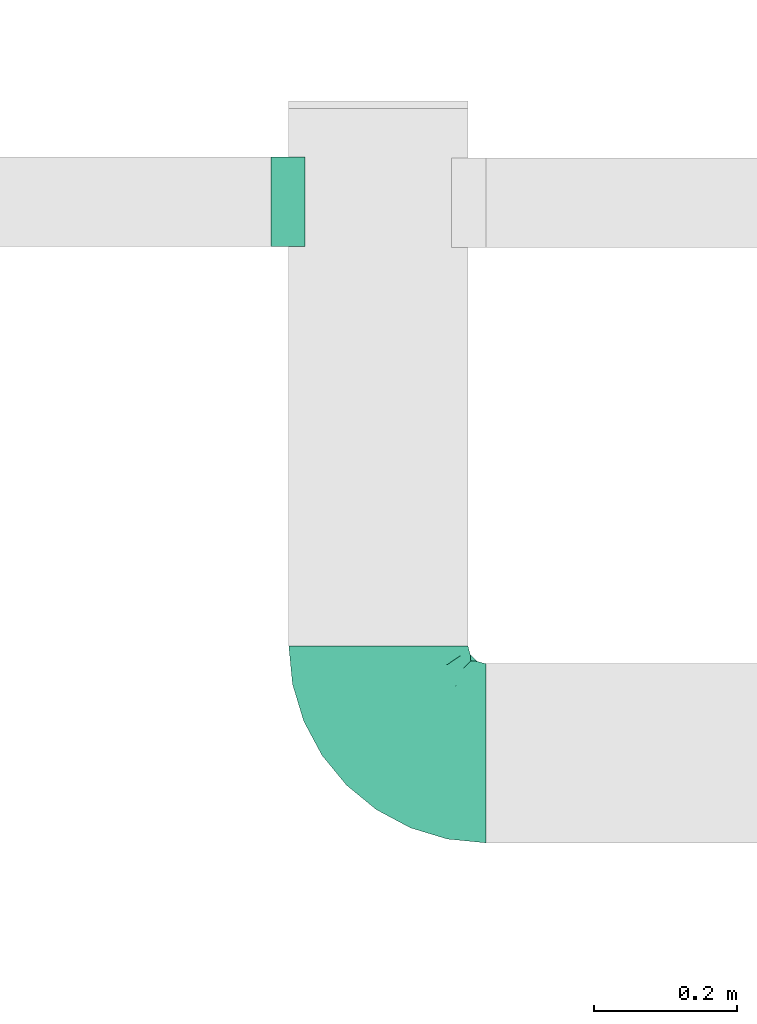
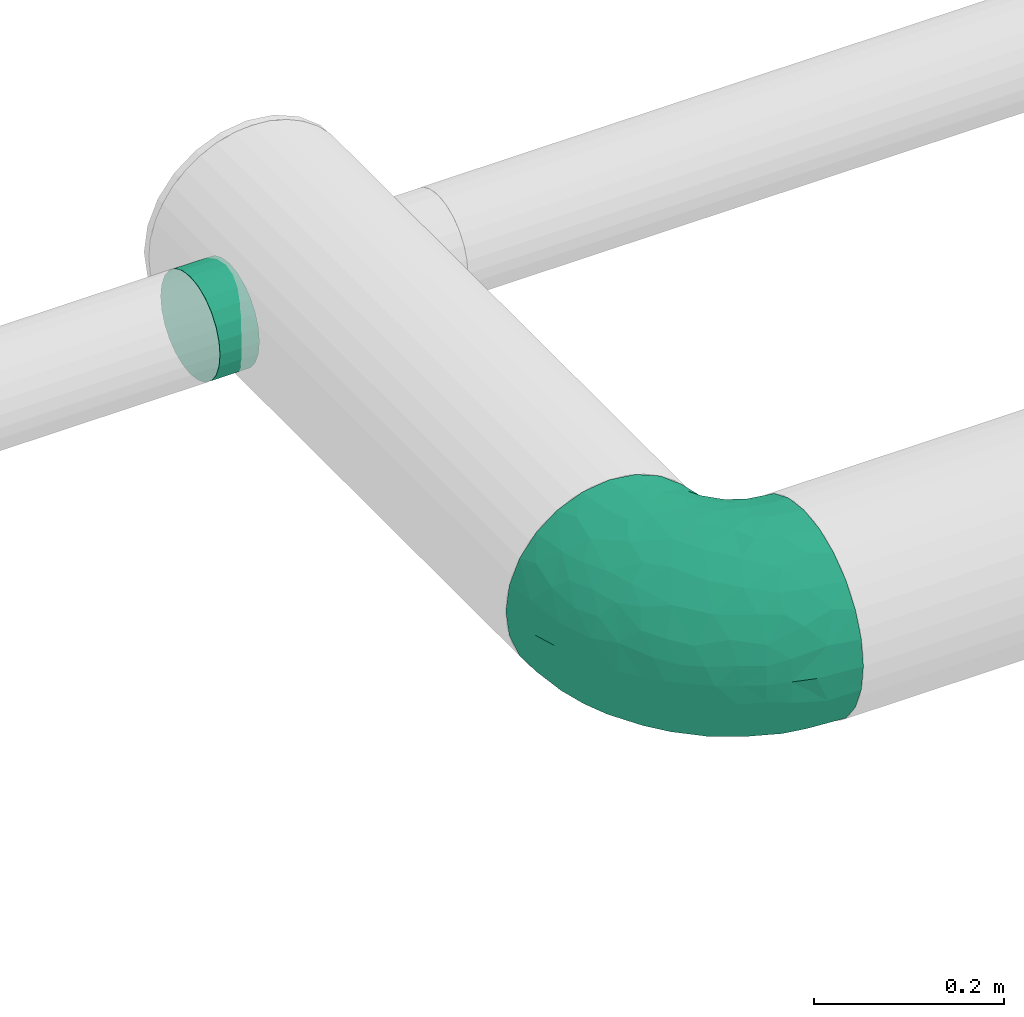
# One storey, part 61 of 63: 2 flow fittings.
"""IFC2X3 building model written with IfcOpenShell, lengths in millimetres."""

from ifc_helpers import new_model, entity, si_unit, converted_unit, derived_unit, direction, frame, origin_with_axes, place, context, subcontext, project, spatial, open_shell, surface_model, source, transform, mapped, type_object, element, save


model = new_model("IFC2X3")

# Units and contexts
model_context = context("Model", 3, precision=0.01, world=frame((0.0, 4.29681676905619e-09, 0.0)), true_north=direction((4.01073788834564e-13, 1.0)))
plan_context = context("Plan", 3, precision=0.01, world=frame((0.0, 4.29681676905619e-09, 0.0)), true_north=direction((4.01073788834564e-13, 1.0)))
body_context = subcontext(model_context, "Body", "Model", "MODEL_VIEW")
ifc_project = project(units=[converted_unit("PLANEANGLEUNIT", "DEGREE", entity("IfcPositiveLengthMeasure", 0.0174532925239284), si_unit("PLANEANGLEUNIT", "RADIAN"), dimensions=[0, 0, 0, 0, 0, 0, 0]), si_unit("AREAUNIT", "SQUARE_METRE"), si_unit("LENGTHUNIT", "METRE", prefix="MILLI"), si_unit("MASSUNIT", "GRAM", prefix="KILO"), si_unit("POWERUNIT", "WATT"), si_unit("PRESSUREUNIT", "PASCAL"), si_unit("FORCEUNIT", "NEWTON", prefix="KILO"), si_unit("ELECTRICVOLTAGEUNIT", "VOLT"), si_unit("ELECTRICCURRENTUNIT", "AMPERE"), si_unit("THERMODYNAMICTEMPERATUREUNIT", "DEGREE_CELSIUS"), si_unit("TIMEUNIT", "SECOND"), si_unit("VOLUMEUNIT", "CUBIC_METRE"), derived_unit("LINEARVELOCITYUNIT", [(si_unit("LENGTHUNIT", "METRE"), 1), (si_unit("TIMEUNIT", "SECOND"), -1)]), derived_unit("VOLUMETRICFLOWRATEUNIT", [(si_unit("VOLUMEUNIT", "CUBIC_METRE"), 1), (si_unit("TIMEUNIT", "SECOND"), -1)]), derived_unit("THERMALTRANSMITTANCEUNIT", [(si_unit("POWERUNIT", "WATT"), 1), (si_unit("THERMODYNAMICTEMPERATUREUNIT", "KELVIN"), -1), (si_unit("AREAUNIT", "SQUARE_METRE"), -1)]), derived_unit("SOUNDPRESSUREUNIT", [(si_unit("PRESSUREUNIT", "PASCAL"), 1)])], contexts=[model_context, plan_context])

# Site, building, storey
site_placement = place(None, frame((0.0, -4.29681676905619e-09, 0.0), z_axis=(0.0, 0.0, 1.0), x_axis=(1.0, 0.0, 0.0)))
site = spatial("IfcSite", under=ifc_project, at=site_placement, CompositionType="ELEMENT")
building_placement = place(site_placement, frame((0.0, 4.29681676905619e-09, 0.0), z_axis=(0.0, 0.0, 1.0), x_axis=(1.0, 0.0, 0.0)))
building = spatial("IfcBuilding", under=site, at=building_placement, Name="mc-building", CompositionType="ELEMENT")
storey_placement = place(building_placement, frame((0.0, 0.0, 210900.0), z_axis=(0.0, 0.0, 1.0), x_axis=(1.0, 0.0, 0.0)))
storey = spatial("IfcBuildingStorey", under=building, at=storey_placement, Name="Nivå F", CompositionType="ELEMENT", Elevation=210900.0)

# Flow fittings
duct_fitting_type_1 = type_object("IfcDuctFittingType", Name="magicirc_elbow_short_001", PredefinedType="BEND")
shared_shape_1 = source(origin_with_axes(), body_context, "Body", "SurfaceModel", [
    surface_model("IfcShellBasedSurfaceModel", [(-150.0, 0.0, -125.0), (-150.0, -32.35238, -120.74073), (-150.0, 32.35238, -120.74073), (-150.0, 62.5, -108.25318), (-150.0, 88.38835, -88.38835), (-150.0, 108.25318, -62.5), (-150.0, 120.74073, -32.35238), (-150.0, -62.5, -108.25318), (-150.0, -88.38835, -88.38835), (-150.0, -125.0, 0.0), (-150.0, -108.25318, -62.5), (-150.0, -120.74073, -32.35238), (-150.0, 125.0, 0.0), (-150.0, -120.74073, 32.35238), (-150.0, 120.74073, 32.35238), (-150.0, 108.25318, 62.5), (-150.0, 32.35238, 120.74073), (-150.0, 62.5, 108.25318), (-150.0, 88.38835, 88.38835), (-150.0, -88.38835, 88.38835), (-150.0, -108.25318, 62.5), (-150.0, -32.35238, 120.74073), (-150.0, 0.0, 125.0), (-150.0, -62.5, 108.25318), (-32.35238, 150.0, -120.74073), (88.38835, 150.0, -88.38835), (0.0, 150.0, -125.0), (-88.38835, 150.0, -88.38835), (-62.5, 150.0, -108.25318), (-108.25318, 150.0, -62.5), (-120.74073, 150.0, -32.35238), (88.38835, 150.0, 88.38835), (32.35238, 150.0, -120.74073), (62.5, 150.0, -108.25318), (120.74073, 150.0, -32.35238), (108.25318, 150.0, -62.5), (125.0, 150.0, 0.0), (-125.0, 150.0, 0.0), (-120.74073, 150.0, 32.35238), (-32.35238, 150.0, 120.74073), (-108.25318, 150.0, 62.5), (-88.38835, 150.0, 88.38835), (-62.5, 150.0, 108.25318), (120.74073, 150.0, 32.35238), (108.25318, 150.0, 62.5), (62.5, 150.0, 108.25318), (0.0, 150.0, 125.0), (32.35238, 150.0, 120.74073), (3.43621, -49.5686, 72.62973), (-18.36868, -48.37229, 88.70337), (-18.83692, -66.65046, 70.44253), (-111.90441, -117.21345, 35.28889), (-118.95041, -121.94188, 0.0), (25.86906, 108.55436, 121.17479), (-75.7772, -90.32158, 72.9261), (-74.87608, -74.03385, 90.43438), (-106.18274, -83.07991, 89.59712), (-96.35016, -119.71595, 0.0), (-46.47779, 70.62109, 123.46212), (-76.11794, 76.11794, 116.41901), (-69.40624, 48.8823, 123.2752), (-124.4932, -102.85852, 69.13391), (61.55426, -23.61809, 0.0), (70.72079, -10.51336, 22.73937), (52.73629, -32.74631, 22.58023), (-124.77817, -54.06971, 111.94259), (-90.65624, -57.4337, 106.30719), (32.14495, -52.26832, 26.33949), (-0.28194, -75.27927, 33.26458), (23.61809, -61.55426, 0.0), (-95.68999, 131.65378, 83.88297), (-69.77814, 120.80048, 106.99559), (-67.0959, -108.40643, 29.86559), (-70.55611, -111.89141, 0.0), (-44.76206, -104.06687, 0.0), (-59.72745, 94.86231, 116.91683), (-108.55438, -25.86905, 121.17479), (54.06971, 124.77816, 111.94259), (-27.02672, -92.24399, 28.66038), (-115.00313, 7.3209, 124.96177), (37.68395, -37.68396, 47.97943), (-29.53309, 7.28525, 119.4722), (-3.39232, -9.52602, 105.74117), (0.96712, 29.12319, 117.22512), (-136.08989, 114.55349, 55.66419), (-123.43379, 95.73566, 87.17875), (-119.07435, 119.07435, 65.82439), (-129.09162, 129.09162, 33.48663), (-137.5, 128.34936, 0.0), (-121.4114, 69.81738, 106.84783), (-150.0, 47.42619, 114.49695), (-128.63564, 33.72653, 120.89263), (-27.58141, -83.17169, 52.68646), (-47.99632, -78.87458, 74.22581), (-54.84475, -96.13379, 51.52422), (-41.1276, 38.26732, 124.85571), (102.85852, 124.4932, 69.13391), (83.07991, 106.18274, 89.59712), (-94.00852, 107.9804, 96.05098), (74.96021, 76.43193, 90.06036), (90.74371, 74.5558, 71.84785), (117.21345, 111.90441, 35.28889), (121.94188, 118.95041, 0.0), (-47.30293, -61.16044, 91.82798), (-101.88517, 84.02177, 104.66367), (110.18665, 71.48082, 28.20521), (111.89141, 70.55611, 0.0), (55.40218, 7.25052, 74.8198), (24.63024, -24.60151, 78.91029), (58.21029, -16.89277, 44.41752), (57.4337, 90.65623, 106.30718), (30.02154, 57.30162, 113.4468), (-128.34936, 137.5, 0.0), (-73.97464, 6.61086, 124.39367), (-33.52256, 127.66016, 120.99202), (-7.19958, 114.11429, 124.96953), (-18.42999, 93.20127, 124.82066), (14.9991, 81.71173, 121.69074), (-109.70554, 132.7303, 65.99174), (-81.52168, -16.35182, 121.37252), (-56.488, -29.68334, 113.41267), (55.20354, 44.94313, 95.60044), (-90.85645, -103.28598, 59.18699), (-26.43187, -29.68413, 104.83883), (103.28598, 90.85645, 59.18699), (-7.20961, 68.77767, 124.18226), (30.67747, 15.69438, 99.90432), (-47.42619, 150.0, 114.49695), (78.87458, 47.99631, 74.22581), (76.94281, 15.76685, 52.00246), (-107.88822, 38.92177, 121.04182), (-96.15013, 61.71268, 115.9946), (-96.31285, 19.15333, 124.70605), (14.59493, -56.28029, 51.4962), (104.06687, 44.76206, 0.0), (102.01943, 45.4582, 23.12647), (119.71595, 96.35016, 0.0), (-20.99012, -91.36051, 0.0), (89.00824, 19.09141, 24.82271), (78.65415, -2.78181, 0.0), (91.36051, 20.99012, 0.0), (2.78181, -78.65415, 0.0), (44.45436, -44.45436, 0.0), (-38.84807, 105.96939, 121.23578), (-120.80048, 69.77814, -106.99559), (54.06971, 124.77816, -111.94259), (-90.65624, -57.4337, -106.30719), (-124.77817, -54.06971, -111.94259), (-108.55438, -25.86906, -121.17479), (-18.36869, -48.37229, -88.70338), (-18.83692, -66.65046, -70.44253), (-47.30293, -61.16045, -91.82798), (-96.31285, 19.15333, -124.70605), (-73.97463, 6.61086, -124.39367), (-115.00313, 7.3209, -124.96177), (14.9991, 81.71175, -121.69074), (25.86906, 108.55438, -121.17479), (30.02154, 57.30164, -113.44681), (-129.09162, 129.09162, -33.48663), (-95.73566, 123.43379, -87.17875), (-84.02176, 101.88516, -104.66368), (-107.9804, 94.00852, -96.05098), (-0.28194, -75.27927, -33.26458), (-131.65378, 95.68999, -83.88297), (-132.7303, 109.70554, -65.99174), (-107.88822, 38.92177, -121.04182), (-128.63564, 33.72653, -120.89263), (-119.07435, 119.07435, -65.82439), (-111.90441, -117.21345, -35.28889), (-76.11794, 76.11793, -116.41901), (-69.69403, 48.67006, -123.27304), (-95.38125, 59.83873, -116.77822), (-106.18274, -83.07991, -89.59712), (-3.39231, -9.52602, -105.74117), (24.63023, -24.60151, -78.91029), (-54.84475, -96.13379, -51.52422), (-75.7772, -90.32158, -72.9261), (-47.99632, -78.87458, -74.22581), (-124.4932, -102.85852, -69.13391), (30.67749, 15.69438, -99.9043), (0.96713, 29.12319, -117.22511), (-69.81738, 121.4114, -106.84784), (-27.02672, -92.24399, -28.66038), (-67.0959, -108.40643, -29.86559), (78.87458, 47.99631, -74.22581), (96.43495, 48.9163, -45.66349), (76.94285, 15.76686, -52.00241), (37.68395, -37.68396, -47.97943), (58.21029, -16.89277, -44.41752), (52.73629, -32.74631, -22.58023), (-48.07357, 68.7261, -123.44788), (-114.55349, 136.08989, -55.66419), (117.21345, 111.90441, -35.28889), (-7.19958, 114.11428, -124.96953), (-27.58141, -83.17169, -52.68646), (-47.42619, 150.0, -114.49695), (-33.52256, 127.66015, -120.99202), (32.14495, -52.26832, -26.33949), (14.59493, -56.28029, -51.4962), (83.07991, 106.18274, -89.59712), (102.85852, 124.4932, -69.13391), (89.00829, 19.0915, -24.82265), (70.72079, -10.51336, -22.73937), (57.4337, 90.65623, -106.30719), (110.18664, 71.4808, -28.20522), (102.0194, 45.45816, -23.12649), (-90.85645, -103.28598, -59.18699), (90.01217, 76.65037, -73.68876), (73.67235, 74.27652, -90.57836), (-29.53307, 7.28526, -119.4722), (-56.488, -29.68334, -113.41267), (-74.87608, -74.03385, -90.43438), (-81.52167, -16.35182, -121.37252), (-26.43187, -29.68413, -104.83883), (103.28598, 90.85645, -59.18699), (-18.42999, 93.20126, -124.82066), (-38.84807, 105.96939, -121.23578), (55.20355, 44.94317, -95.60045), (-150.0, 47.42619, -114.49695), (55.40223, 7.25057, -74.81978), (-61.71268, 96.15012, -115.9946), (-41.12759, 38.26731, -124.85571), (3.43621, -49.56858, -72.62973), (-7.2096, 68.77766, -124.18226), (96.43496, 48.91625, 45.66343)], [open_shell([[[0, 1, 2]], [[3, 2, 4]], [[1, 5, 2]], [[4, 2, 5]], [[5, 1, 6]], [[7, 8, 1]], [[9, 1, 8]], [[10, 11, 8]], [[9, 8, 11]], [[9, 6, 1]], [[9, 12, 6]], [[12, 13, 14]], [[15, 14, 16]], [[16, 17, 18]], [[15, 16, 18]], [[16, 14, 19]], [[20, 19, 13]], [[19, 14, 13]], [[21, 22, 23]], [[19, 23, 22]], [[19, 22, 16]], [[9, 13, 12]], [[24, 25, 26]], [[27, 24, 28]], [[29, 30, 24]], [[29, 24, 27]], [[24, 31, 25]], [[32, 25, 33]], [[32, 26, 25]], [[25, 34, 35]], [[34, 25, 36]], [[25, 31, 36]], [[24, 30, 37]], [[38, 31, 37]], [[39, 38, 40]], [[41, 42, 39]], [[41, 39, 40]], [[31, 38, 39]], [[43, 31, 44]], [[36, 31, 43]], [[45, 46, 47]], [[46, 45, 31]], [[39, 46, 31]], [[31, 24, 37]], [[48, 49, 50]], [[51, 13, 52]], [[53, 47, 46]], [[54, 55, 56]], [[52, 57, 51]], [[58, 59, 60]], [[20, 61, 19]], [[62, 63, 64]], [[65, 56, 66]], [[67, 68, 69]], [[41, 70, 71]], [[72, 73, 74]], [[59, 58, 75]], [[21, 76, 22]], [[77, 45, 47]], [[23, 19, 56]], [[72, 74, 78]], [[79, 16, 22]], [[76, 21, 65]], [[80, 67, 64]], [[81, 82, 83]], [[84, 85, 86]], [[87, 12, 14]], [[12, 87, 88]], [[18, 17, 89]], [[51, 20, 13]], [[18, 89, 85]], [[17, 90, 91]], [[84, 14, 15]], [[91, 90, 16]], [[92, 93, 94]], [[40, 70, 41]], [[83, 95, 81]], [[44, 31, 96]], [[97, 31, 45]], [[86, 85, 98]], [[99, 100, 97]], [[101, 102, 43]], [[66, 55, 103]], [[77, 97, 45]], [[101, 43, 44]], [[85, 15, 18]], [[104, 85, 89]], [[85, 84, 15]], [[101, 105, 106]], [[107, 108, 109]], [[110, 53, 111]], [[88, 87, 112]], [[60, 113, 95]], [[112, 87, 37]], [[85, 104, 98]], [[38, 37, 87]], [[71, 114, 42]], [[115, 116, 117]], [[118, 38, 87]], [[70, 118, 98]], [[119, 76, 120]], [[110, 111, 121]], [[115, 53, 46]], [[42, 41, 71]], [[77, 53, 110]], [[72, 78, 94]], [[54, 122, 94]], [[21, 23, 65]], [[120, 76, 66]], [[61, 56, 19]], [[76, 119, 79]], [[93, 103, 55]], [[120, 123, 81]], [[99, 97, 110]], [[96, 97, 124]], [[46, 39, 115]], [[111, 117, 125]], [[125, 83, 111]], [[111, 83, 126]], [[75, 98, 59]], [[114, 39, 127]], [[128, 107, 129]], [[121, 107, 128]], [[130, 89, 17]], [[104, 131, 59]], [[114, 115, 39]], [[115, 114, 116]], [[51, 57, 73]], [[61, 51, 122]], [[96, 101, 44]], [[76, 79, 22]], [[132, 79, 113]], [[83, 125, 95]], [[126, 83, 82]], [[125, 116, 58]], [[59, 131, 60]], [[126, 82, 108]], [[121, 111, 126]], [[49, 108, 82]], [[80, 133, 67]], [[123, 49, 82]], [[93, 92, 50]], [[107, 121, 126]], [[121, 128, 99]], [[108, 107, 126]], [[107, 109, 129]], [[95, 113, 81]], [[120, 81, 113]], [[63, 109, 64]], [[134, 105, 135]], [[106, 136, 101]], [[101, 124, 105]], [[78, 74, 137]], [[73, 72, 51]], [[51, 72, 122]], [[68, 133, 50]], [[72, 94, 122]], [[92, 94, 78]], [[54, 94, 93]], [[63, 129, 109]], [[138, 139, 140]], [[68, 92, 78]], [[50, 49, 103]], [[78, 141, 68]], [[68, 141, 69]], [[67, 69, 142]], [[64, 67, 142]], [[68, 67, 133]], [[68, 50, 92]], [[48, 50, 133]], [[80, 48, 133]], [[108, 49, 48]], [[62, 139, 63]], [[80, 64, 109]], [[139, 138, 63]], [[129, 63, 138]], [[64, 142, 62]], [[109, 108, 80]], [[48, 80, 108]], [[55, 54, 93]], [[56, 122, 54]], [[93, 50, 103]], [[56, 55, 66]], [[123, 103, 49]], [[66, 103, 120]], [[131, 104, 89]], [[98, 104, 59]], [[89, 130, 131]], [[60, 95, 58]], [[131, 130, 60]], [[60, 130, 132]], [[125, 58, 95]], [[75, 58, 143]], [[143, 71, 75]], [[98, 75, 71]], [[118, 70, 40]], [[135, 140, 134]], [[71, 70, 98]], [[38, 118, 40]], [[98, 118, 86]], [[84, 87, 14]], [[118, 87, 86]], [[13, 9, 52]], [[102, 101, 136]], [[102, 36, 43]], [[87, 84, 86]], [[51, 61, 20]], [[56, 61, 122]], [[56, 65, 23]], [[76, 65, 66]], [[97, 96, 31]], [[101, 96, 124]], [[53, 77, 47]], [[97, 77, 110]], [[114, 71, 143]], [[116, 114, 143]], [[42, 114, 127]], [[79, 132, 91]], [[79, 91, 16]], [[17, 91, 130]], [[120, 113, 119]], [[79, 119, 113]], [[121, 99, 110]], [[100, 99, 128]], [[97, 100, 124]], [[111, 53, 117]], [[115, 117, 53]], [[58, 116, 143]], [[117, 116, 125]], [[60, 132, 113]], [[91, 132, 130]], [[81, 123, 82]], [[103, 123, 120]], [[140, 135, 138]], [[105, 134, 106]], [[137, 141, 78]], [[4, 144, 3]], [[32, 33, 145]], [[146, 147, 148]], [[149, 150, 151]], [[152, 153, 154]], [[155, 156, 157]], [[88, 158, 12]], [[159, 160, 161]], [[158, 6, 12]], [[141, 162, 69]], [[161, 163, 164]], [[3, 165, 166]], [[167, 159, 161]], [[158, 164, 6]], [[10, 168, 11]], [[168, 52, 11]], [[169, 170, 171]], [[7, 147, 172]], [[173, 174, 149]], [[175, 176, 177]], [[148, 1, 0]], [[34, 36, 102]], [[10, 8, 178]], [[179, 173, 180]], [[160, 159, 181]], [[182, 74, 183]], [[8, 7, 172]], [[184, 185, 186]], [[187, 188, 189]], [[158, 88, 112]], [[154, 148, 0]], [[37, 30, 158]], [[170, 169, 190]], [[191, 30, 29]], [[192, 35, 34]], [[4, 163, 144]], [[191, 159, 167]], [[24, 26, 193]], [[147, 7, 1]], [[154, 0, 2]], [[156, 193, 26]], [[162, 182, 194]], [[195, 24, 196]], [[197, 162, 198]], [[181, 159, 27]], [[159, 29, 27]], [[199, 33, 25]], [[35, 200, 25]], [[186, 185, 201]], [[202, 62, 189]], [[32, 145, 156]], [[199, 203, 145]], [[204, 134, 205]], [[183, 168, 206]], [[102, 136, 192]], [[34, 102, 192]], [[27, 28, 181]], [[182, 141, 137]], [[32, 156, 26]], [[199, 207, 208]], [[209, 180, 173]], [[146, 148, 210]], [[176, 211, 177]], [[37, 158, 112]], [[178, 172, 206]], [[5, 163, 4]], [[210, 212, 153]], [[209, 210, 153]], [[213, 173, 149]], [[200, 199, 25]], [[207, 199, 214]], [[157, 156, 203]], [[215, 216, 196]], [[203, 208, 217]], [[171, 161, 169]], [[166, 2, 218]], [[179, 174, 173]], [[186, 188, 219]], [[181, 28, 196]], [[160, 220, 169]], [[193, 156, 155]], [[28, 195, 196]], [[178, 168, 10]], [[168, 73, 57]], [[192, 106, 204]], [[200, 192, 214]], [[2, 166, 154]], [[154, 153, 212]], [[179, 180, 157]], [[180, 209, 221]], [[153, 152, 170]], [[169, 220, 190]], [[157, 217, 179]], [[179, 217, 219]], [[174, 179, 219]], [[194, 177, 150]], [[150, 222, 198]], [[211, 151, 177]], [[203, 217, 157]], [[184, 186, 219]], [[184, 219, 217]], [[174, 219, 188]], [[209, 173, 213]], [[153, 221, 209]], [[207, 185, 184]], [[186, 201, 202]], [[204, 185, 214]], [[205, 140, 201]], [[214, 192, 204]], [[168, 183, 73]], [[74, 73, 183]], [[183, 175, 182]], [[175, 183, 206]], [[182, 175, 194]], [[176, 175, 206]], [[194, 175, 177]], [[205, 185, 204]], [[206, 172, 176]], [[177, 151, 150]], [[194, 150, 162]], [[69, 162, 197]], [[141, 182, 162]], [[69, 197, 142]], [[187, 197, 198]], [[189, 142, 197]], [[222, 150, 149]], [[162, 150, 198]], [[149, 174, 222]], [[187, 222, 174]], [[222, 187, 198]], [[174, 188, 187]], [[187, 189, 197]], [[189, 188, 202]], [[186, 202, 188]], [[201, 139, 202]], [[62, 202, 139]], [[62, 142, 189]], [[211, 172, 146]], [[172, 211, 176]], [[146, 210, 151]], [[146, 151, 211]], [[213, 151, 210]], [[220, 160, 181]], [[161, 160, 169]], [[181, 216, 220]], [[190, 221, 170]], [[220, 216, 190]], [[190, 216, 215]], [[153, 170, 221]], [[171, 165, 144]], [[165, 171, 170]], [[161, 171, 144]], [[164, 163, 5]], [[140, 139, 201]], [[144, 163, 161]], [[6, 164, 5]], [[161, 164, 167]], [[191, 158, 30]], [[164, 158, 167]], [[52, 168, 57]], [[52, 9, 11]], [[159, 191, 29]], [[158, 191, 167]], [[172, 178, 8]], [[168, 178, 206]], [[148, 147, 1]], [[172, 147, 146]], [[192, 200, 35]], [[199, 200, 214]], [[199, 145, 33]], [[156, 145, 203]], [[216, 181, 196]], [[24, 193, 196]], [[215, 196, 193]], [[165, 3, 144]], [[3, 166, 218]], [[166, 165, 152]], [[210, 148, 212]], [[154, 212, 148]], [[185, 207, 214]], [[208, 207, 184]], [[217, 208, 184]], [[199, 208, 203]], [[155, 215, 193]], [[166, 152, 154]], [[170, 152, 165]], [[151, 213, 149]], [[209, 213, 210]], [[140, 205, 134]], [[201, 185, 205]], [[106, 192, 136]], [[106, 134, 204]], [[74, 182, 137]], [[190, 223, 221]], [[180, 221, 223]], [[180, 223, 157]], [[157, 223, 155]], [[155, 223, 215]], [[190, 215, 223]], [[124, 100, 224]], [[224, 128, 129]], [[105, 124, 224]], [[138, 224, 129]], [[224, 135, 105]], [[224, 100, 128]], [[224, 138, 135]]])]),
])
flow_fitting_1_placement = place(storey_placement, frame((528724.09314, 460362.68623, 4200.0), z_axis=(0.0, 0.0, 1.0), x_axis=(0.0, -1.0, 0.0)))
element("IfcFlowFitting", 1, at=flow_fitting_1_placement, inside=storey, type_object=duct_fitting_type_1, Name="magicirc_elbow_short_001", context=body_context, shape_type="MappedRepresentation", body=[
    mapped(shared_shape_1, transform((0.0, 0.0, 0.0), scale=1.0)),
])
duct_fitting_type_2 = type_object("IfcDuctFittingType", Name="magicirc_tapoutlet_001", PredefinedType="CONNECTOR")
shared_shape_2 = source(origin_with_axes(), body_context, "Body", "SurfaceModel", [
    surface_model("IfcShellBasedSurfaceModel", [(-22.84282, -44.19417, -44.19417), (-22.84282, -62.5, 0.0), (-22.84282, -31.25, -54.12659), (-22.84282, -54.12659, -31.25), (-22.84282, 62.5, 0.0), (-22.84282, 60.37037, -16.17619), (-22.84282, 60.37037, 16.17619), (25.0, 0.0, -62.5), (25.0, 16.17619, -60.37037), (25.0, -16.17619, -60.37037), (25.0, -60.37037, 16.17619), (25.0, -31.25, -54.12659), (25.0, -44.19417, -44.19417), (25.0, -54.12659, -31.25), (25.0, 62.5, 0.0), (25.0, 60.37037, 16.17619), (25.0, 44.19417, -44.19417), (25.0, 31.25, -54.12659), (25.0, 60.37037, -16.17619), (25.0, 54.12659, -31.25), (25.0, -60.37037, -16.17619), (25.0, -54.12659, 31.25), (25.0, -44.19417, 44.19417), (25.0, -16.17619, 60.37037), (25.0, -31.25, 54.12659), (25.0, 16.17619, 60.37037), (25.0, 54.12659, 31.25), (25.0, 44.19417, 44.19417), (25.0, 31.25, 54.12659), (25.0, 0.0, 62.5), (25.0, -62.5, 0.0), (0.0, 0.0, 62.5), (0.0, -16.17619, 60.37037), (0.0, -44.19417, 44.19417), (0.0, -31.25, 54.12659), (0.0, -54.12659, 31.25), (0.0, -60.37037, 16.17619), (0.0, -62.5, 0.0), (0.0, -60.37037, -16.17619), (0.0, -44.19417, -44.19417), (0.0, -54.12659, -31.25), (0.0, -31.25, -54.12659), (0.0, -16.17619, -60.37037), (0.0, 0.0, -62.5), (0.0, 16.17619, -60.37037), (0.0, 44.19417, -44.19417), (0.0, 31.25, -54.12659), (0.0, 54.12659, -31.25), (0.0, 60.37037, -16.17619), (0.0, 62.5, 0.0), (0.0, 60.37037, 16.17619), (0.0, 44.19417, 44.19417), (0.0, 54.12659, 31.25), (0.0, 31.25, 54.12659), (0.0, 16.17619, 60.37037), (-22.84282, -16.17619, -60.37037), (-22.84282, 0.0, -62.5), (-22.84282, 44.19417, -44.19417), (-22.84282, 31.25, -54.12659), (-22.84282, 16.17619, -60.37037), (-22.84282, 54.12659, -31.25), (-22.84282, -60.37037, -16.17619), (-22.84282, -60.37037, 16.17619), (-22.84282, -54.12659, 31.25), (-22.84282, -44.19417, 44.19417), (-22.84282, -31.25, 54.12659), (-22.84282, 0.0, 62.5), (-22.84282, -16.17619, 60.37037), (-22.84282, 44.19417, 44.19417), (-22.84282, 54.12659, 31.25), (-22.84282, 16.17619, 60.37037), (-22.84282, 31.25, 54.12659)], [open_shell([[[0, 1, 2]], [[0, 3, 1]], [[4, 5, 6]], [[7, 8, 9]], [[9, 10, 11]], [[12, 10, 13]], [[11, 10, 12]], [[9, 14, 15]], [[16, 14, 17]], [[8, 17, 14]], [[18, 14, 19]], [[16, 19, 14]], [[14, 9, 8]], [[20, 13, 10]], [[10, 9, 21]], [[22, 21, 9]], [[9, 23, 24]], [[9, 24, 22]], [[9, 25, 23]], [[26, 27, 9]], [[9, 15, 26]], [[27, 28, 9]], [[9, 28, 25]], [[25, 29, 23]], [[30, 20, 10]], [[23, 29, 31]], [[24, 23, 32]], [[32, 23, 31]], [[33, 22, 34]], [[24, 32, 34]], [[24, 34, 22]], [[10, 21, 35]], [[30, 10, 36]], [[35, 21, 33]], [[10, 35, 36]], [[30, 36, 37]], [[22, 33, 21]], [[20, 30, 37]], [[13, 20, 38]], [[38, 20, 37]], [[39, 12, 40]], [[13, 38, 40]], [[13, 40, 12]], [[9, 11, 41]], [[7, 9, 42]], [[41, 11, 39]], [[9, 41, 42]], [[7, 42, 43]], [[12, 39, 11]], [[8, 7, 43]], [[17, 8, 44]], [[44, 8, 43]], [[45, 16, 46]], [[17, 44, 46]], [[17, 46, 16]], [[18, 19, 47]], [[14, 18, 48]], [[47, 19, 45]], [[18, 47, 48]], [[14, 48, 49]], [[16, 45, 19]], [[15, 14, 49]], [[26, 15, 50]], [[50, 15, 49]], [[51, 27, 52]], [[26, 50, 52]], [[26, 52, 27]], [[25, 28, 53]], [[29, 25, 54]], [[53, 28, 51]], [[25, 53, 54]], [[29, 54, 31]], [[27, 51, 28]], [[9, 21, 10]], [[9, 22, 21]], [[24, 9, 23]], [[24, 22, 9]], [[23, 9, 25]], [[26, 9, 15]], [[55, 1, 56]], [[2, 1, 55]], [[57, 56, 6]], [[56, 57, 58]], [[58, 59, 56]], [[60, 6, 5]], [[6, 60, 57]], [[5, 6, 4]], [[1, 3, 61]], [[62, 63, 56]], [[56, 63, 64]], [[56, 65, 66]], [[64, 65, 56]], [[65, 67, 66]], [[56, 68, 69]], [[69, 6, 56]], [[70, 71, 56]], [[71, 68, 56]], [[70, 56, 66]], [[1, 62, 56]], [[32, 31, 66]], [[34, 32, 67]], [[67, 32, 66]], [[64, 33, 65]], [[34, 67, 65]], [[34, 65, 33]], [[36, 35, 63]], [[37, 36, 62]], [[63, 35, 64]], [[36, 63, 62]], [[37, 62, 1]], [[33, 64, 35]], [[38, 37, 1]], [[40, 38, 61]], [[61, 38, 1]], [[0, 39, 3]], [[40, 61, 3]], [[40, 3, 39]], [[42, 41, 2]], [[43, 42, 55]], [[2, 41, 0]], [[42, 2, 55]], [[43, 55, 56]], [[39, 0, 41]], [[44, 43, 56]], [[46, 44, 59]], [[59, 44, 56]], [[57, 45, 58]], [[46, 59, 58]], [[46, 58, 45]], [[48, 47, 60]], [[49, 48, 5]], [[60, 47, 57]], [[48, 60, 5]], [[49, 5, 4]], [[45, 57, 47]], [[50, 49, 4]], [[52, 50, 6]], [[6, 50, 4]], [[68, 51, 69]], [[52, 6, 69]], [[52, 69, 51]], [[54, 53, 71]], [[31, 54, 70]], [[71, 53, 68]], [[54, 71, 70]], [[31, 70, 66]], [[51, 68, 53]], [[56, 58, 59]], [[66, 56, 65]], [[56, 64, 65]], [[67, 66, 65]], [[6, 56, 69]], [[62, 56, 1]]])]),
])
flow_fitting_2_placement = place(storey_placement, frame((528599.09314, 461132.06301, 4200.0), z_axis=(0.0, 0.0, -1.0), x_axis=(-1.0, 0.0, 0.0)))
element("IfcFlowFitting", 2, at=flow_fitting_2_placement, inside=storey, type_object=duct_fitting_type_2, Name="magicirc_tapoutlet_001", context=body_context, shape_type="MappedRepresentation", body=[
    mapped(shared_shape_2, transform((0.0, 0.0, 0.0), scale=1.0)),
])

save(model, "model.ifc")
